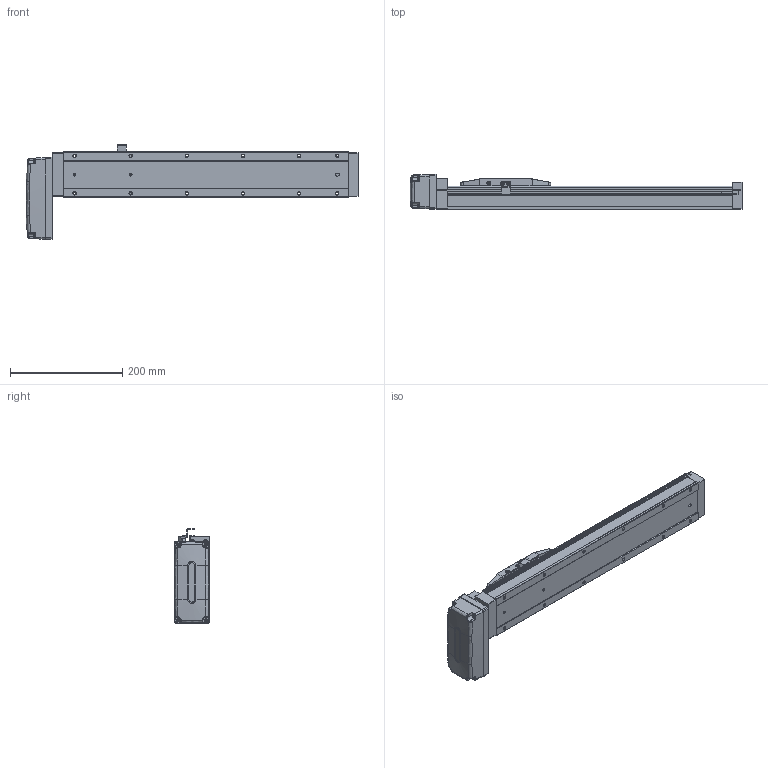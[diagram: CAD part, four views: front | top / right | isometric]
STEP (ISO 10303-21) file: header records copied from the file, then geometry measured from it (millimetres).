
FILE_DESCRIPTION (( 'STEP AP203' ), '1' );
FILE_NAME ('EFS-08R_MY.STEP', '2025-07-17T09:19:05', ( '' ), ( '' ), 'SwSTEP 2.0', 'SolidWorks 2024', '' );
FILE_SCHEMA (( 'CONFIG_CONTROL_DESIGN' ));
Length unit declared in the file: millimetre
Products named in the file (1): EFS-08R_MY
Bounding box: 591.5 x 63 x 168 mm (x, y, z)
Volume: 2194335.3 mm3; surface area: 273506.5 mm2
Topology: 15 solids, 15 shells, 943 faces, 2404 edges, 1520 vertices
Faces by surface type: plane 410, cylinder 317, cone 90, bspline 78, torus 38, sphere 10
Entity records: 33111 total; most frequent: CARTESIAN_POINT 10669, ORIENTED_EDGE 4736, DIRECTION 4537, EDGE_CURVE 2368, AXIS2_PLACEMENT_3D 1612, VERTEX_POINT 1520, VECTOR 1313, LINE 1313
